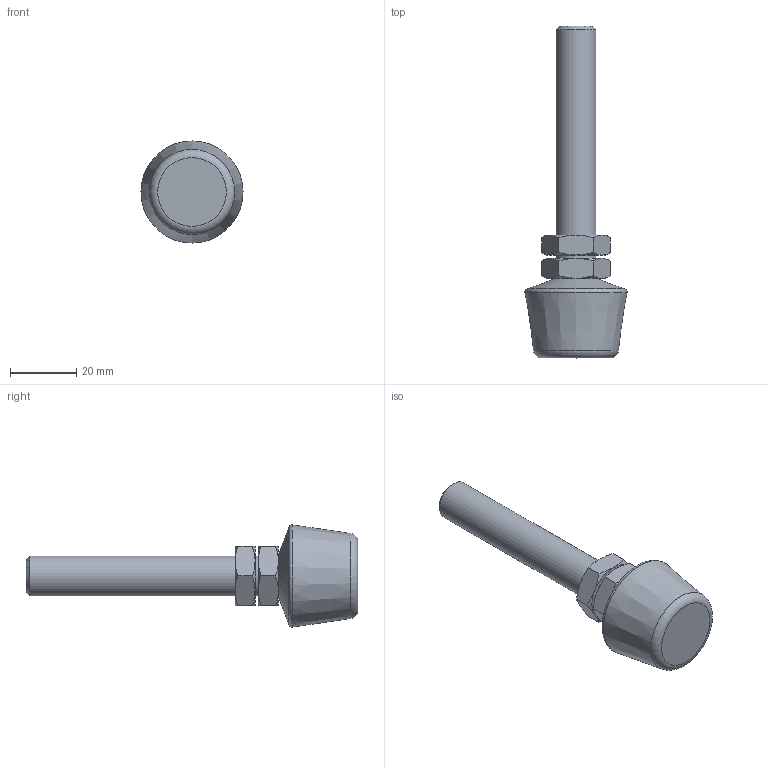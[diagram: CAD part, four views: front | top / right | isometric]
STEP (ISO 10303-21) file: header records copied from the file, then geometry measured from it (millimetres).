
FILE_DESCRIPTION( ( 'STEP AP203' ), '1' );
FILE_NAME( 'C:/Temp/Ganter_Step_05_03_2020/data/2_4/gn_708_1/gn_708_1_st/Clamping bolt GN 708.1-M12-100-A-ST (0).stp', '2020-03-13T05:51:08', ( 'License CC BY-ND 4.0' ), ( 'CADENAS' ), ' ', 'PARTsolutions', ' ' );
FILE_SCHEMA( ( 'CONFIG_CONTROL_DESIGN' ) );
Length unit declared in the file: millimetre
Products named in the file (3): Clamping bolt GN 708.1-M12-100-A-ST (0); _Andrueckschraube GN 708.1-M12-100-A-ST (0)-1; _Andrueckschraube GN 708.1-M12-100-A-ST2
Assembly tree (3 placements, depth 2):
  Clamping bolt GN 708.1-M12-100-A-ST (0)
    _Andrueckschraube GN 708.1-M12-100-A-ST (0)-1
    _Andrueckschraube GN 708.1-M12-100-A-ST2  x2
Bounding box: 30.78 x 100 x 30.78 mm (x, y, z)
Volume: 24833.8 mm3; surface area: 7675.1 mm2
Topology: 3 solids, 3 shells, 54 faces, 111 edges, 63 vertices
Faces by surface type: cone 31, plane 18, cylinder 3, torus 2
Full cylindrical faces by diameter (mm): 10.106 x2, 12 x1
Entity records: 954 total; most frequent: CARTESIAN_POINT 260, DIRECTION 122, ORIENTED_EDGE 106, AXIS2_PLACEMENT_3D 58, EDGE_CURVE 53, EDGE_LOOP 42, VERTEX_POINT 36, FACE_OUTER_BOUND 35
